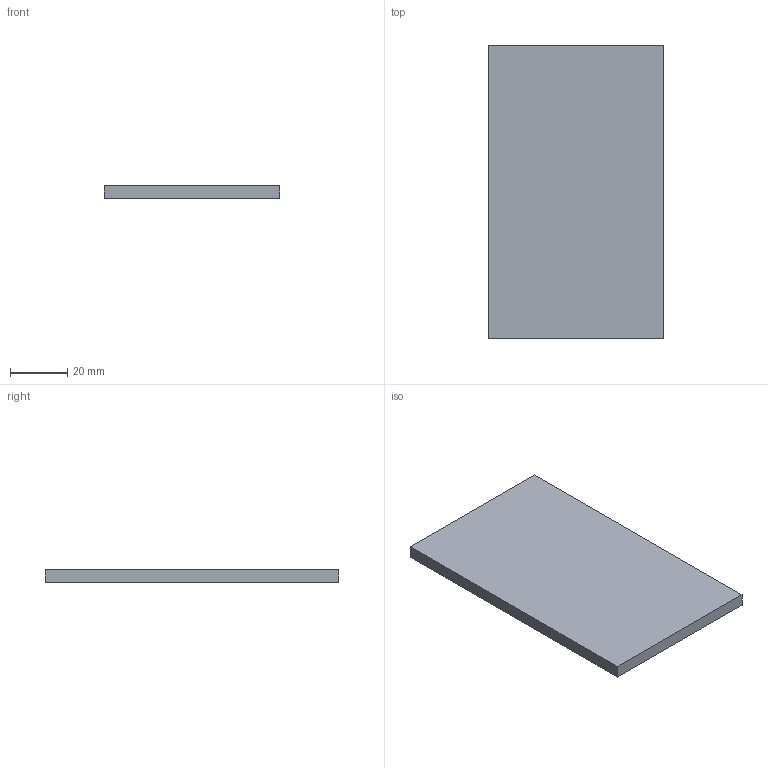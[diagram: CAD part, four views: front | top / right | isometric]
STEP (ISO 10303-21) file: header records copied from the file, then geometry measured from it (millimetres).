
FILE_DESCRIPTION(/* description */ ('STEP AP242 Edition 2','CAx-IF Rec.Pracs.---Representation and Presentation of Product Manufacturing Information (PMI)---4.0---2014-10-13','CAx-IF Rec.Pracs.---3D Tessellated Geometry---0.4---2014-09-14','2;1','CAx-IF Rec.Pracs.---User Defined Attributes---1.5---2016-08-15'),/* implementation_level */ '2;1');
FILE_NAME(/* name */ 'Assembly 1 - Part 2 (1)',/* time_stamp */ '2026-07-23T10:03:21Z',/* author */ (''),/* organization */ (''),/* preprocessor_version */ 'ST-DEVELOPER v20',/* originating_system */ 'ONSHAPE BY PTC INC, 1.218',/* authorisation */ ' ');
FILE_SCHEMA (('AP242_MANAGED_MODEL_BASED_3D_ENGINEERING_MIM_LF { 1 0 10303 442 3 1 4 }'));
Length unit declared in the file: metre
Products named in the file (1): Part 2
Bounding box: 61.6 x 102.8 x 4.5 mm (x, y, z)
Volume: 28496.2 mm3; surface area: 14144.6 mm2
Topology: 1 solids, 1 shells, 6 faces, 12 edges, 8 vertices
Faces by surface type: plane 6
Entity records: 178 total; most frequent: CARTESIAN_POINT 27, DIRECTION 26, ORIENTED_EDGE 24, EDGE_CURVE 12, LINE 12, VECTOR 12, VERTEX_POINT 8, AXIS2_PLACEMENT_3D 7
